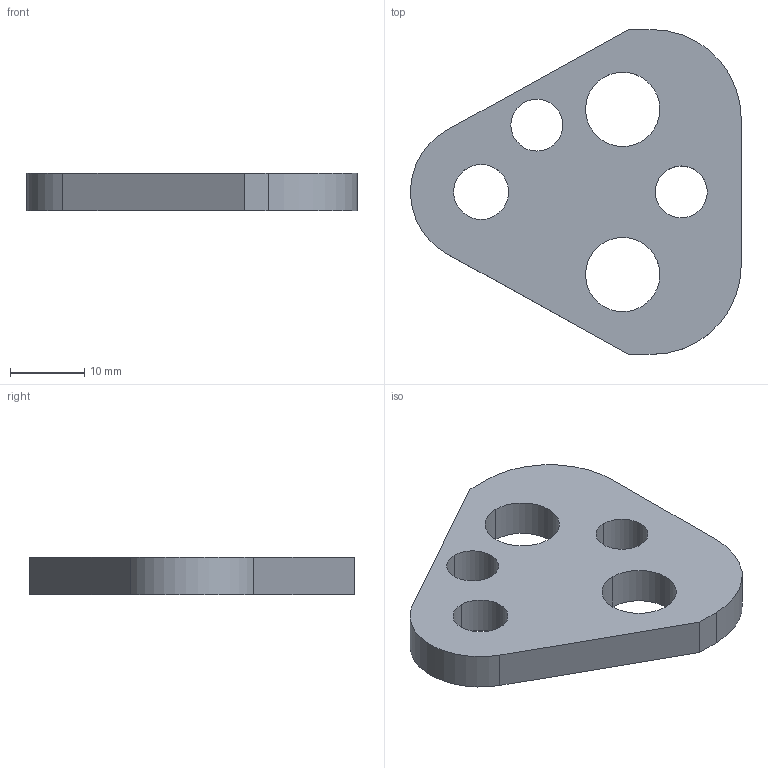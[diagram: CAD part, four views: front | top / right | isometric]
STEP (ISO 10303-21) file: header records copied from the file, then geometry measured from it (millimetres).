
FILE_DESCRIPTION(/* description */ (''),/* implementation_level */ '2;1');
FILE_NAME(/* name */ '3d_crnbd10_03633_r00.stp',/* time_stamp */ '2011-01-10T14:16:19+09:00',/* author */ ('MISUMI'),/* organization */ (''),/* preprocessor_version */ 'ST-DEVELOPER v11',/* originating_system */ 'UGS - NX 5.0',/* authorisation */ '');
FILE_SCHEMA (('CONFIG_CONTROL_DESIGN'));
Length unit declared in the file: millimetre
Products named in the file (1): 3d_crnbd10_03633_r00
Bounding box: 44.47 x 43.7 x 5 mm (x, y, z)
Volume: 5594.6 mm3; surface area: 3587.4 mm2
Topology: 1 solids, 1 shells, 20 faces, 54 edges, 36 vertices
Faces by surface type: cylinder 13, plane 7
Entity records: 750 total; most frequent: DIRECTION 122, CARTESIAN_POINT 111, ORIENTED_EDGE 108, EDGE_CURVE 54, AXIS2_PLACEMENT_3D 47, VERTEX_POINT 36, EDGE_LOOP 30, LINE 28
